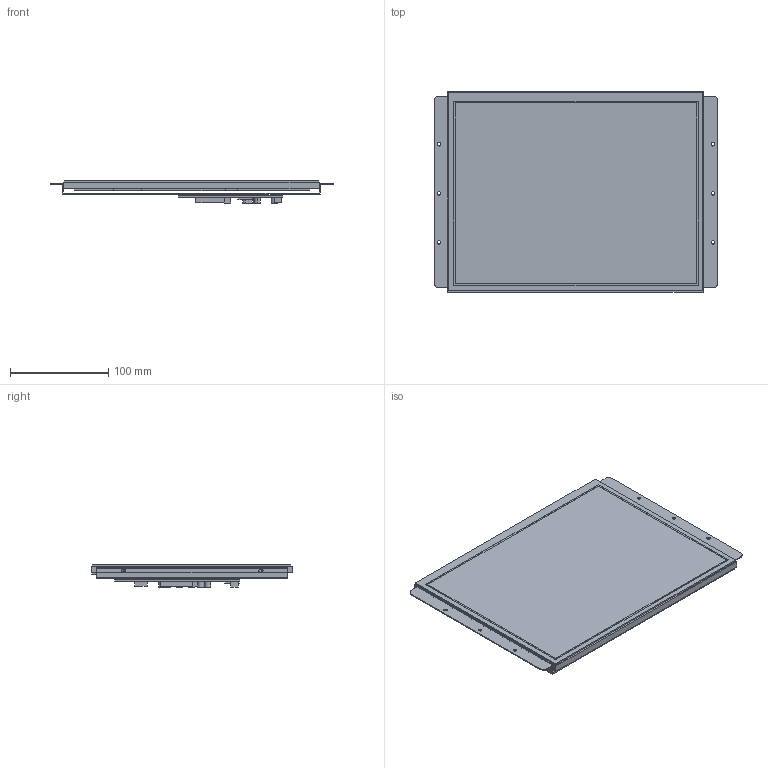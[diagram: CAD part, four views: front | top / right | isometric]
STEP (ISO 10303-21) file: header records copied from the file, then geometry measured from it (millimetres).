
FILE_DESCRIPTION((''),'2;1');
FILE_NAME('3D-DMG10768K121-03WTR','2022-02-22T',('Administrator'),(''),'PRO/ENGINEER BY PARAMETRIC TECHNOLOGY CORPORATION, 2011310','PRO/ENGINEER BY PARAMETRIC TECHNOLOGY CORPORATION, 2011310','');
FILE_SCHEMA(('CONFIG_CONTROL_DESIGN','SHAPE_APPEARANCE_LAYERS_GROUPS'));
Length unit declared in the file: millimetre
Products named in the file (1): 3D-DMG10768K121-03WTR
Bounding box: 289.2 x 204 x 22.9 mm (x, y, z)
Volume: 494102.6 mm3; surface area: 390372.9 mm2
Topology: 2 solids, 5 shells, 224 faces, 562 edges, 374 vertices
Faces by surface type: plane 146, cylinder 78
Entity records: 7838 total; most frequent: CARTESIAN_POINT 1178, DIRECTION 1162, ORIENTED_EDGE 1124, EDGE_CURVE 562, VECTOR 402, LINE 402, AXIS2_PLACEMENT_3D 380, VERTEX_POINT 374
